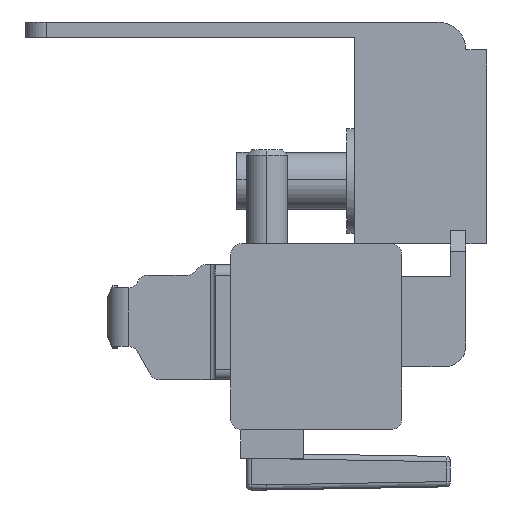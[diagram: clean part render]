
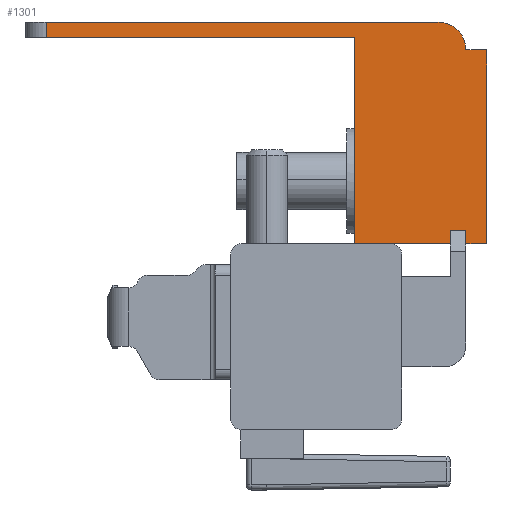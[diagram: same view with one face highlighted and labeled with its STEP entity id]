
A CAD part, left-side view. The second image highlights one B-rep face of the part: STEP entity #1301.
In plain terms, the highlighted planar face has unit normal (-1, 0, 0).
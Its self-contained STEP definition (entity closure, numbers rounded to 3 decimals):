
#6 = VERTEX_POINT ( 'NONE', #2449 ) ;
#7 = ORIENTED_EDGE ( 'NONE', *, *, #1544, .F. ) ;
#8 = ORIENTED_EDGE ( 'NONE', *, *, #3940, .F. ) ;
#28 = VERTEX_POINT ( 'NONE', #3635 ) ;
#80 = VERTEX_POINT ( 'NONE', #800 ) ;
#103 = EDGE_LOOP ( 'NONE', ( #7, #8, #5354, #2729, #3509, #1604, #3577, #1928, #1349, #2205, #4089, #694, #4192 ) ) ;
#133 = VERTEX_POINT ( 'NONE', #3825 ) ;
#185 = EDGE_CURVE ( 'NONE', #133, #4093, #1733, .T. ) ;
#228 = EDGE_CURVE ( 'NONE', #80, #1563, #2724, .T. ) ;
#396 = VERTEX_POINT ( 'NONE', #406 ) ;
#406 = CARTESIAN_POINT ( 'NONE',  ( -276., -17.713, -1.651 ) ) ;
#497 = DIRECTION ( 'NONE',  ( 0., 1., 0. ) ) ;
#539 = DIRECTION ( 'NONE',  ( 0., 1., 0. ) ) ;
#577 = LINE ( 'NONE', #2276, #4954 ) ;
#588 = AXIS2_PLACEMENT_3D ( 'NONE', #3807, #3963, #539 ) ;
#637 = CARTESIAN_POINT ( 'NONE',  ( -276., -28.333, 16.879 ) ) ;
#694 = ORIENTED_EDGE ( 'NONE', *, *, #3501, .T. ) ;
#706 = VERTEX_POINT ( 'NONE', #3816 ) ;
#800 = CARTESIAN_POINT ( 'NONE',  ( -276., -26.863, -0.361 ) ) ;
#855 = VECTOR ( 'NONE', #4353, 1000. ) ;
#1006 = CARTESIAN_POINT ( 'NONE',  ( -276., -30.333, -1.651 ) ) ;
#1032 = LINE ( 'NONE', #4942, #3176 ) ;
#1162 = VECTOR ( 'NONE', #4377, 1000. ) ;
#1232 = EDGE_CURVE ( 'NONE', #3075, #6, #1032, .T. ) ;
#1301 = ADVANCED_FACE ( 'NONE', ( #3919 ), #4169, .F. ) ;
#1316 = LINE ( 'NONE', #1006, #4558 ) ;
#1339 = CARTESIAN_POINT ( 'NONE',  ( -276., -30.333, 16.879 ) ) ;
#1349 = ORIENTED_EDGE ( 'NONE', *, *, #185, .F. ) ;
#1390 = CARTESIAN_POINT ( 'NONE',  ( -276., -17.713, -1.651 ) ) ;
#1403 = VERTEX_POINT ( 'NONE', #2091 ) ;
#1509 = VECTOR ( 'NONE', #3069, 1000. ) ;
#1544 = EDGE_CURVE ( 'NONE', #1888, #80, #5224, .T. ) ;
#1563 = VERTEX_POINT ( 'NONE', #4318 ) ;
#1604 = ORIENTED_EDGE ( 'NONE', *, *, #3532, .T. ) ;
#1630 = EDGE_CURVE ( 'NONE', #1403, #706, #1316, .T. ) ;
#1657 = EDGE_CURVE ( 'NONE', #396, #2983, #3462, .T. ) ;
#1733 = LINE ( 'NONE', #4764, #3865 ) ;
#1838 = VECTOR ( 'NONE', #3135, 1000. ) ;
#1888 = VERTEX_POINT ( 'NONE', #5419 ) ;
#1902 = DIRECTION ( 'NONE',  ( 0., 1., 0. ) ) ;
#1928 = ORIENTED_EDGE ( 'NONE', *, *, #4759, .T. ) ;
#1984 = CIRCLE ( 'NONE', #4311, 2.67 ) ;
#2091 = CARTESIAN_POINT ( 'NONE',  ( -276., -30.333, -1.651 ) ) ;
#2125 = LINE ( 'NONE', #1390, #855 ) ;
#2205 = ORIENTED_EDGE ( 'NONE', *, *, #3810, .F. ) ;
#2239 = CARTESIAN_POINT ( 'NONE',  ( -276., -26.863, -1.651 ) ) ;
#2274 = CARTESIAN_POINT ( 'NONE',  ( -276., -25.663, 16.879 ) ) ;
#2276 = CARTESIAN_POINT ( 'NONE',  ( -276., -28.333, -1.651 ) ) ;
#2449 = CARTESIAN_POINT ( 'NONE',  ( -276., -25.663, 19.549 ) ) ;
#2627 = VECTOR ( 'NONE', #4046, 1000. ) ;
#2700 = DIRECTION ( 'NONE',  ( 0., 0., -1. ) ) ;
#2706 = CARTESIAN_POINT ( 'NONE',  ( -276., -30.333, 16.879 ) ) ;
#2724 = LINE ( 'NONE', #2239, #3733 ) ;
#2729 = ORIENTED_EDGE ( 'NONE', *, *, #3914, .F. ) ;
#2766 = CARTESIAN_POINT ( 'NONE',  ( -276., -17.713, -1.651 ) ) ;
#2920 = LINE ( 'NONE', #1339, #5164 ) ;
#2983 = VERTEX_POINT ( 'NONE', #5347 ) ;
#2985 = VECTOR ( 'NONE', #497, 1000. ) ;
#3069 = DIRECTION ( 'NONE',  ( 0., 0., 1. ) ) ;
#3075 = VERTEX_POINT ( 'NONE', #3139 ) ;
#3135 = DIRECTION ( 'NONE',  ( 0., 0., -1. ) ) ;
#3139 = CARTESIAN_POINT ( 'NONE',  ( -276., 11.767, 19.549 ) ) ;
#3176 = VECTOR ( 'NONE', #5141, 1000. ) ;
#3361 = CARTESIAN_POINT ( 'NONE',  ( -276., -26.863, -0.361 ) ) ;
#3462 = LINE ( 'NONE', #2766, #1162 ) ;
#3501 = EDGE_CURVE ( 'NONE', #2983, #1563, #2125, .T. ) ;
#3509 = ORIENTED_EDGE ( 'NONE', *, *, #3766, .T. ) ;
#3532 = EDGE_CURVE ( 'NONE', #4005, #6, #1984, .T. ) ;
#3577 = ORIENTED_EDGE ( 'NONE', *, *, #1232, .F. ) ;
#3635 = CARTESIAN_POINT ( 'NONE',  ( -276., -30.333, 16.879 ) ) ;
#3640 = CARTESIAN_POINT ( 'NONE',  ( -276., 11.767, 17.779 ) ) ;
#3733 = VECTOR ( 'NONE', #5143, 1000. ) ;
#3766 = EDGE_CURVE ( 'NONE', #28, #4005, #2920, .T. ) ;
#3807 = CARTESIAN_POINT ( 'NONE',  ( -276., -29.063, 15.779 ) ) ;
#3810 = EDGE_CURVE ( 'NONE', #396, #133, #4891, .T. ) ;
#3816 = CARTESIAN_POINT ( 'NONE',  ( -276., -28.333, -1.651 ) ) ;
#3825 = CARTESIAN_POINT ( 'NONE',  ( -276., -17.713, 18.079 ) ) ;
#3865 = VECTOR ( 'NONE', #5046, 1000. ) ;
#3892 = DIRECTION ( 'NONE',  ( 0., 1., 0. ) ) ;
#3893 = LINE ( 'NONE', #3640, #2627 ) ;
#3914 = EDGE_CURVE ( 'NONE', #28, #1403, #5228, .T. ) ;
#3919 = FACE_OUTER_BOUND ( 'NONE', #103, .T. ) ;
#3940 = EDGE_CURVE ( 'NONE', #706, #1888, #577, .T. ) ;
#3963 = DIRECTION ( 'NONE',  ( 1., 0., 0. ) ) ;
#4005 = VERTEX_POINT ( 'NONE', #637 ) ;
#4046 = DIRECTION ( 'NONE',  ( 0., 0., -1. ) ) ;
#4089 = ORIENTED_EDGE ( 'NONE', *, *, #1657, .T. ) ;
#4093 = VERTEX_POINT ( 'NONE', #4937 ) ;
#4169 = PLANE ( 'NONE',  #588 ) ;
#4192 = ORIENTED_EDGE ( 'NONE', *, *, #228, .F. ) ;
#4311 = AXIS2_PLACEMENT_3D ( 'NONE', #2274, #5237, #2700 ) ;
#4318 = CARTESIAN_POINT ( 'NONE',  ( -276., -26.863, -1.651 ) ) ;
#4353 = DIRECTION ( 'NONE',  ( 0., -1., 0. ) ) ;
#4377 = DIRECTION ( 'NONE',  ( 0., -1., 0. ) ) ;
#4558 = VECTOR ( 'NONE', #1902, 1000. ) ;
#4759 = EDGE_CURVE ( 'NONE', #3075, #4093, #3893, .T. ) ;
#4764 = CARTESIAN_POINT ( 'NONE',  ( -276., -29.063, 18.079 ) ) ;
#4891 = LINE ( 'NONE', #5193, #1509 ) ;
#4937 = CARTESIAN_POINT ( 'NONE',  ( -276., 11.767, 18.079 ) ) ;
#4942 = CARTESIAN_POINT ( 'NONE',  ( -276., 14.667, 19.549 ) ) ;
#4954 = VECTOR ( 'NONE', #5257, 1000. ) ;
#5046 = DIRECTION ( 'NONE',  ( 0., 1., 0. ) ) ;
#5141 = DIRECTION ( 'NONE',  ( 0., -1., 0. ) ) ;
#5143 = DIRECTION ( 'NONE',  ( 0., 0., -1. ) ) ;
#5164 = VECTOR ( 'NONE', #3892, 1000. ) ;
#5193 = CARTESIAN_POINT ( 'NONE',  ( -276., -17.713, -1.651 ) ) ;
#5224 = LINE ( 'NONE', #3361, #2985 ) ;
#5228 = LINE ( 'NONE', #2706, #1838 ) ;
#5237 = DIRECTION ( 'NONE',  ( -1., 0., 0. ) ) ;
#5257 = DIRECTION ( 'NONE',  ( 0., 0., 1. ) ) ;
#5347 = CARTESIAN_POINT ( 'NONE',  ( -276., -21.203, -1.651 ) ) ;
#5354 = ORIENTED_EDGE ( 'NONE', *, *, #1630, .F. ) ;
#5419 = CARTESIAN_POINT ( 'NONE',  ( -276., -28.333, -0.361 ) ) ;
